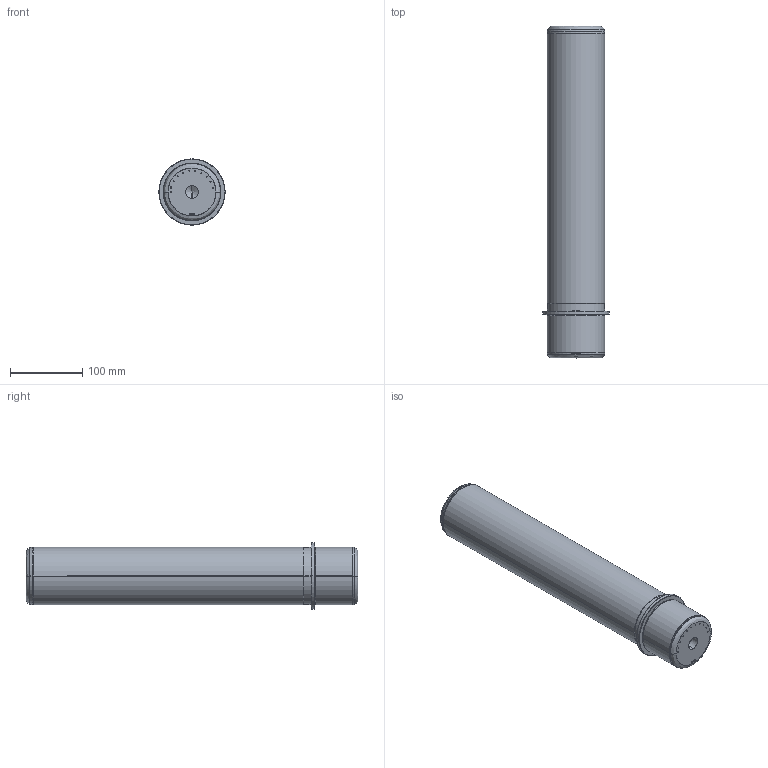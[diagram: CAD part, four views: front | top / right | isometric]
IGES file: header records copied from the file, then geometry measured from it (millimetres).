
Start section: SolidWorks IGES file using analytic representation for surfaces
Global section: file name: D:\Cleonir_arquivos\MT_15_07\Pinos Desmontáveis\PFG80400.igs; native system: SolidWorks 2013; preprocessor: SolidWorks 2013; author: Cleonir; date: 130730.162809; units: millimetre
Bounding box: 92 x 460 x 92 mm (x, y, z)
Surface area: 133423.8 mm2 (no closed solid volume)
Topology: 0 solids, 0 shells, 321 faces, 3859 edges, 3855 vertices
Faces by surface type: bspline 280, revolution 41
